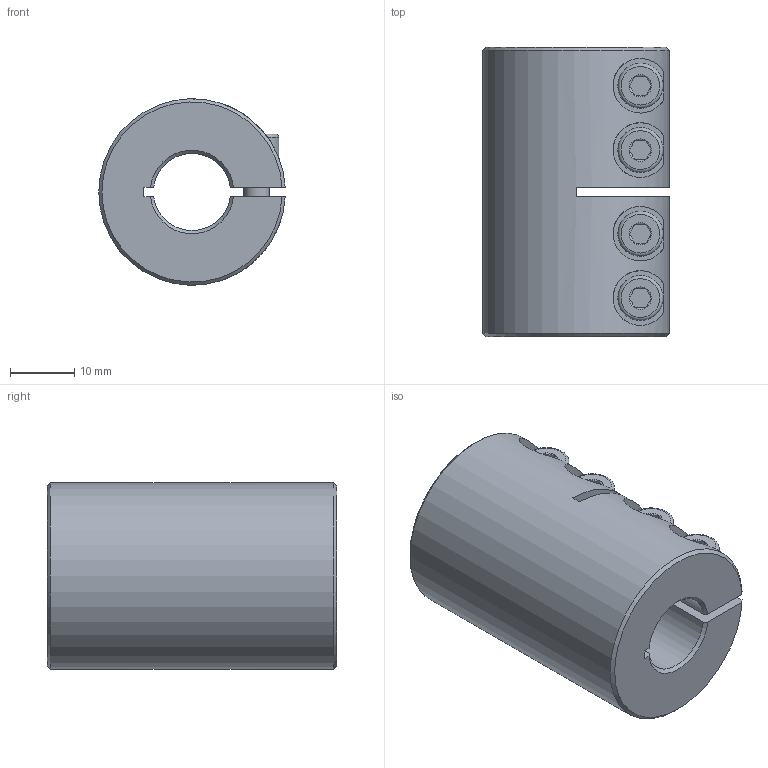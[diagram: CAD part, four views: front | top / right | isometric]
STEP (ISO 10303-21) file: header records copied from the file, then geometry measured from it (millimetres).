
FILE_DESCRIPTION( ( 'Unknown' ), '1' );
FILE_NAME( 'K:/Konstruktion/Fertigungszeichnungen/Schalenkupplung/KBST/KBST-12.stp', 'Unknown', ( 'Unknown' ), ( 'Unknown' ), 'PSStep 16.0.42', 'Unknown', ' ' );
FILE_SCHEMA( ( 'AUTOMOTIVE_DESIGN { 1 0 10303 214 1 1 1 1 }' ) );
Length unit declared in the file: millimetre
Products named in the file (3): Assem1; ISO EN DIN 4762 M4x12; KBST-12
Assembly tree (5 placements, depth 2):
  Assem1
    ISO EN DIN 4762 M4x12  x4
    KBST-12
Bounding box: 28.98 x 45 x 29 mm (x, y, z)
Volume: 22947.9 mm3; surface area: 10140.1 mm2
Topology: 5 solids, 5 shells, 140 faces, 282 edges, 172 vertices
Faces by surface type: plane 67, cone 34, cylinder 31, torus 8
Full cylindrical faces by diameter (mm): 3.242 x4, 3.5 x4, 4 x8, 4.5 x4, 7 x4
Entity records: 2776 total; most frequent: CARTESIAN_POINT 773, DIRECTION 298, ORIENTED_EDGE 258, EDGE_CURVE 129, AXIS2_PLACEMENT_3D 124, EDGE_LOOP 104, VERTEX_POINT 91, FACE_OUTER_BOUND 79
